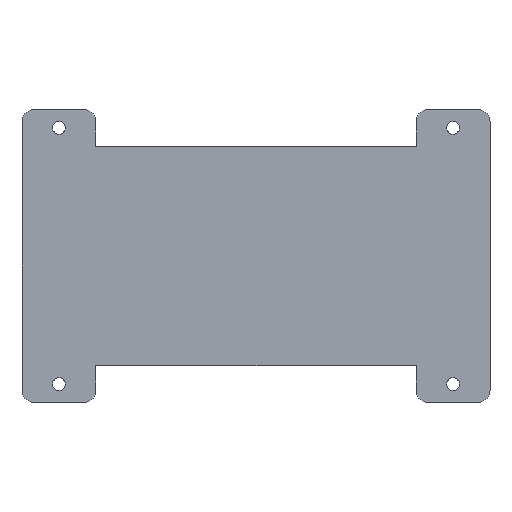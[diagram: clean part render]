
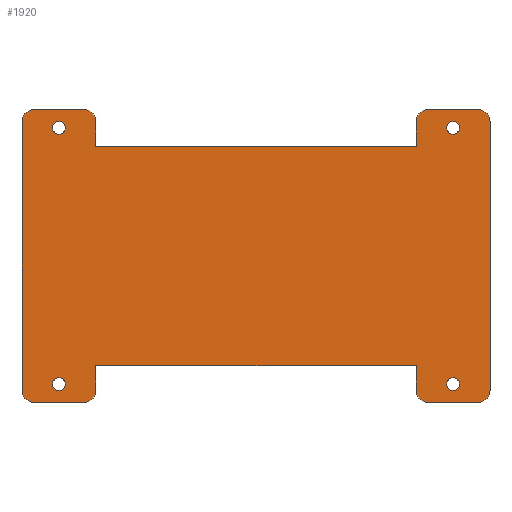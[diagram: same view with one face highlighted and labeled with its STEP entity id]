
A CAD part, top view. The second image highlights one B-rep face of the part: STEP entity #1920.
In plain terms, the highlighted planar face has unit normal (0, 0, 1).
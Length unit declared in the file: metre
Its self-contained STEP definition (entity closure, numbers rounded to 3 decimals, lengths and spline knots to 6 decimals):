
#49=CIRCLE('',#2052,0.003264);
#50=CIRCLE('',#2053,0.003264);
#51=CIRCLE('',#2054,0.003264);
#52=CIRCLE('',#2055,0.003264);
#53=CIRCLE('',#2056,0.00635);
#54=CIRCLE('',#2057,0.00635);
#55=CIRCLE('',#2058,0.00635);
#56=CIRCLE('',#2059,0.00635);
#57=CIRCLE('',#2060,0.00635);
#58=CIRCLE('',#2061,0.00635);
#59=CIRCLE('',#2062,0.00635);
#60=CIRCLE('',#2063,0.00635);
#204=ORIENTED_EDGE('',*,*,#740,.T.);
#205=ORIENTED_EDGE('',*,*,#741,.T.);
#206=ORIENTED_EDGE('',*,*,#742,.T.);
#207=ORIENTED_EDGE('',*,*,#743,.T.);
#208=ORIENTED_EDGE('',*,*,#638,.F.);
#209=ORIENTED_EDGE('',*,*,#744,.F.);
#210=ORIENTED_EDGE('',*,*,#745,.T.);
#211=ORIENTED_EDGE('',*,*,#746,.F.);
#212=ORIENTED_EDGE('',*,*,#747,.F.);
#213=ORIENTED_EDGE('',*,*,#721,.T.);
#214=ORIENTED_EDGE('',*,*,#748,.T.);
#215=ORIENTED_EDGE('',*,*,#749,.T.);
#216=ORIENTED_EDGE('',*,*,#750,.F.);
#217=ORIENTED_EDGE('',*,*,#751,.T.);
#218=ORIENTED_EDGE('',*,*,#723,.T.);
#219=ORIENTED_EDGE('',*,*,#752,.F.);
#220=ORIENTED_EDGE('',*,*,#753,.T.);
#221=ORIENTED_EDGE('',*,*,#754,.F.);
#222=ORIENTED_EDGE('',*,*,#755,.F.);
#223=ORIENTED_EDGE('',*,*,#712,.F.);
#224=ORIENTED_EDGE('',*,*,#756,.T.);
#225=ORIENTED_EDGE('',*,*,#757,.T.);
#226=ORIENTED_EDGE('',*,*,#758,.F.);
#227=ORIENTED_EDGE('',*,*,#759,.T.);
#638=EDGE_CURVE('',#915,#916,#1103,.T.);
#712=EDGE_CURVE('',#980,#978,#1168,.T.);
#721=EDGE_CURVE('',#985,#988,#1177,.T.);
#723=EDGE_CURVE('',#990,#989,#1179,.T.);
#740=EDGE_CURVE('',#1005,#1005,#49,.T.);
#741=EDGE_CURVE('',#1006,#1006,#50,.T.);
#742=EDGE_CURVE('',#1007,#1007,#51,.T.);
#743=EDGE_CURVE('',#1008,#1008,#52,.T.);
#744=EDGE_CURVE('',#1009,#915,#53,.T.);
#745=EDGE_CURVE('',#1009,#1010,#1190,.T.);
#746=EDGE_CURVE('',#1011,#1010,#54,.T.);
#747=EDGE_CURVE('',#985,#1011,#1191,.T.);
#748=EDGE_CURVE('',#988,#1012,#1192,.T.);
#749=EDGE_CURVE('',#1012,#1013,#55,.T.);
#750=EDGE_CURVE('',#1014,#1013,#1193,.T.);
#751=EDGE_CURVE('',#1014,#990,#56,.T.);
#752=EDGE_CURVE('',#1015,#989,#57,.T.);
#753=EDGE_CURVE('',#1015,#1016,#1194,.T.);
#754=EDGE_CURVE('',#1017,#1016,#58,.T.);
#755=EDGE_CURVE('',#978,#1017,#1195,.T.);
#756=EDGE_CURVE('',#980,#1018,#1196,.T.);
#757=EDGE_CURVE('',#1018,#1019,#59,.T.);
#758=EDGE_CURVE('',#1020,#1019,#1197,.T.);
#759=EDGE_CURVE('',#1020,#916,#60,.T.);
#915=VERTEX_POINT('',#2715);
#916=VERTEX_POINT('',#2717);
#978=VERTEX_POINT('',#2856);
#980=VERTEX_POINT('',#2861);
#985=VERTEX_POINT('',#2874);
#988=VERTEX_POINT('',#2880);
#989=VERTEX_POINT('',#2884);
#990=VERTEX_POINT('',#2886);
#1005=VERTEX_POINT('',#2919);
#1006=VERTEX_POINT('',#2921);
#1007=VERTEX_POINT('',#2923);
#1008=VERTEX_POINT('',#2925);
#1009=VERTEX_POINT('',#2927);
#1010=VERTEX_POINT('',#2929);
#1011=VERTEX_POINT('',#2931);
#1012=VERTEX_POINT('',#2934);
#1013=VERTEX_POINT('',#2936);
#1014=VERTEX_POINT('',#2938);
#1015=VERTEX_POINT('',#2941);
#1016=VERTEX_POINT('',#2943);
#1017=VERTEX_POINT('',#2945);
#1018=VERTEX_POINT('',#2948);
#1019=VERTEX_POINT('',#2950);
#1020=VERTEX_POINT('',#2952);
#1103=LINE('',#2716,#1337);
#1168=LINE('',#2862,#1402);
#1177=LINE('',#2881,#1411);
#1179=LINE('',#2885,#1413);
#1190=LINE('',#2928,#1424);
#1191=LINE('',#2932,#1425);
#1192=LINE('',#2933,#1426);
#1193=LINE('',#2937,#1427);
#1194=LINE('',#2942,#1428);
#1195=LINE('',#2946,#1429);
#1196=LINE('',#2947,#1430);
#1197=LINE('',#2951,#1431);
#1337=VECTOR('',#2183,1.);
#1402=VECTOR('',#2280,1.);
#1411=VECTOR('',#2293,1.);
#1413=VECTOR('',#2297,1.);
#1424=VECTOR('',#2332,1.);
#1425=VECTOR('',#2335,1.);
#1426=VECTOR('',#2336,1.);
#1427=VECTOR('',#2339,1.);
#1428=VECTOR('',#2344,1.);
#1429=VECTOR('',#2347,1.);
#1430=VECTOR('',#2348,1.);
#1431=VECTOR('',#2351,1.);
#1583=EDGE_LOOP('',(#204));
#1584=EDGE_LOOP('',(#205));
#1585=EDGE_LOOP('',(#206));
#1586=EDGE_LOOP('',(#207));
#1587=EDGE_LOOP('',(#208,#209,#210,#211,#212,#213,#214,#215,#216,#217,#218,
#219,#220,#221,#222,#223,#224,#225,#226,#227));
#1715=FACE_BOUND('',#1583,.T.);
#1716=FACE_BOUND('',#1584,.T.);
#1717=FACE_BOUND('',#1585,.T.);
#1718=FACE_BOUND('',#1586,.T.);
#1719=FACE_BOUND('',#1587,.T.);
#1836=PLANE('',#2051);
#1920=ADVANCED_FACE('',(#1715,#1716,#1717,#1718,#1719),#1836,.T.);
#2051=AXIS2_PLACEMENT_3D('',#2917,#2320,#2321);
#2052=AXIS2_PLACEMENT_3D('',#2918,#2322,#2323);
#2053=AXIS2_PLACEMENT_3D('',#2920,#2324,#2325);
#2054=AXIS2_PLACEMENT_3D('',#2922,#2326,#2327);
#2055=AXIS2_PLACEMENT_3D('',#2924,#2328,#2329);
#2056=AXIS2_PLACEMENT_3D('',#2926,#2330,#2331);
#2057=AXIS2_PLACEMENT_3D('',#2930,#2333,#2334);
#2058=AXIS2_PLACEMENT_3D('',#2935,#2337,#2338);
#2059=AXIS2_PLACEMENT_3D('',#2939,#2340,#2341);
#2060=AXIS2_PLACEMENT_3D('',#2940,#2342,#2343);
#2061=AXIS2_PLACEMENT_3D('',#2944,#2345,#2346);
#2062=AXIS2_PLACEMENT_3D('',#2949,#2349,#2350);
#2063=AXIS2_PLACEMENT_3D('',#2953,#2352,#2353);
#2183=DIRECTION('',(0.,-1.,0.));
#2280=DIRECTION('',(-1.,0.,0.));
#2293=DIRECTION('',(-1.,0.,0.));
#2297=DIRECTION('',(0.,-1.,0.));
#2320=DIRECTION('',(0.,0.,1.));
#2321=DIRECTION('',(1.,0.,0.));
#2322=DIRECTION('',(0.,0.,-1.));
#2323=DIRECTION('',(-1.,0.,0.));
#2324=DIRECTION('',(0.,0.,-1.));
#2325=DIRECTION('',(-1.,0.,0.));
#2326=DIRECTION('',(0.,0.,-1.));
#2327=DIRECTION('',(-1.,0.,0.));
#2328=DIRECTION('',(0.,0.,-1.));
#2329=DIRECTION('',(-1.,0.,0.));
#2330=DIRECTION('',(0.,0.,-1.));
#2331=DIRECTION('',(1.,0.,0.));
#2332=DIRECTION('',(-1.,0.,0.));
#2333=DIRECTION('',(0.,0.,-1.));
#2334=DIRECTION('',(1.,0.,0.));
#2335=DIRECTION('',(0.,1.,0.));
#2336=DIRECTION('',(0.,1.,0.));
#2337=DIRECTION('',(0.,0.,1.));
#2338=DIRECTION('',(1.,0.,0.));
#2339=DIRECTION('',(1.,0.,0.));
#2340=DIRECTION('',(0.,0.,1.));
#2341=DIRECTION('',(1.,0.,0.));
#2342=DIRECTION('',(0.,0.,-1.));
#2343=DIRECTION('',(1.,0.,0.));
#2344=DIRECTION('',(1.,0.,0.));
#2345=DIRECTION('',(0.,0.,-1.));
#2346=DIRECTION('',(1.,0.,0.));
#2347=DIRECTION('',(0.,-1.,0.));
#2348=DIRECTION('',(0.,-1.,0.));
#2349=DIRECTION('',(0.,0.,1.));
#2350=DIRECTION('',(1.,0.,0.));
#2351=DIRECTION('',(-1.,0.,0.));
#2352=DIRECTION('',(0.,0.,1.));
#2353=DIRECTION('',(1.,0.,0.));
#2715=CARTESIAN_POINT('',(0.3175,0.069215,0.));
#2716=CARTESIAN_POINT('',(0.3175,0.,0.));
#2717=CARTESIAN_POINT('',(0.3175,-0.069215,0.));
#2856=CARTESIAN_POINT('',(0.1143,-0.056515,0.));
#2861=CARTESIAN_POINT('',(0.2794,-0.056515,0.));
#2862=CARTESIAN_POINT('',(0.19685,-0.056515,0.));
#2874=CARTESIAN_POINT('',(0.2794,0.056515,0.));
#2880=CARTESIAN_POINT('',(0.1143,0.056515,0.));
#2881=CARTESIAN_POINT('',(0.19685,0.056515,0.));
#2884=CARTESIAN_POINT('',(0.0762,-0.069215,0.));
#2885=CARTESIAN_POINT('',(0.0762,0.,0.));
#2886=CARTESIAN_POINT('',(0.0762,0.069215,0.));
#2917=CARTESIAN_POINT('',(0.13335,0.,0.));
#2918=CARTESIAN_POINT('',(0.09525,0.06604,0.));
#2919=CARTESIAN_POINT('',(0.091986,0.06604,0.));
#2920=CARTESIAN_POINT('',(0.29845,0.06604,0.));
#2921=CARTESIAN_POINT('',(0.295186,0.06604,0.));
#2922=CARTESIAN_POINT('',(0.29845,-0.06604,0.));
#2923=CARTESIAN_POINT('',(0.295186,-0.06604,0.));
#2924=CARTESIAN_POINT('',(0.09525,-0.06604,0.));
#2925=CARTESIAN_POINT('',(0.091986,-0.06604,0.));
#2926=CARTESIAN_POINT('',(0.31115,0.069215,0.));
#2927=CARTESIAN_POINT('',(0.31115,0.075565,0.));
#2928=CARTESIAN_POINT('',(0.29845,0.075565,0.));
#2929=CARTESIAN_POINT('',(0.28575,0.075565,0.));
#2930=CARTESIAN_POINT('',(0.28575,0.069215,0.));
#2931=CARTESIAN_POINT('',(0.2794,0.069215,0.));
#2932=CARTESIAN_POINT('',(0.2794,0.062865,0.));
#2933=CARTESIAN_POINT('',(0.1143,0.062865,0.));
#2934=CARTESIAN_POINT('',(0.1143,0.069215,0.));
#2935=CARTESIAN_POINT('',(0.10795,0.069215,0.));
#2936=CARTESIAN_POINT('',(0.10795,0.075565,0.));
#2937=CARTESIAN_POINT('',(0.09525,0.075565,0.));
#2938=CARTESIAN_POINT('',(0.08255,0.075565,0.));
#2939=CARTESIAN_POINT('',(0.08255,0.069215,0.));
#2940=CARTESIAN_POINT('',(0.08255,-0.069215,0.));
#2941=CARTESIAN_POINT('',(0.08255,-0.075565,0.));
#2942=CARTESIAN_POINT('',(0.09525,-0.075565,0.));
#2943=CARTESIAN_POINT('',(0.10795,-0.075565,0.));
#2944=CARTESIAN_POINT('',(0.10795,-0.069215,0.));
#2945=CARTESIAN_POINT('',(0.1143,-0.069215,0.));
#2946=CARTESIAN_POINT('',(0.1143,-0.062865,0.));
#2947=CARTESIAN_POINT('',(0.2794,-0.062865,0.));
#2948=CARTESIAN_POINT('',(0.2794,-0.069215,0.));
#2949=CARTESIAN_POINT('',(0.28575,-0.069215,0.));
#2950=CARTESIAN_POINT('',(0.28575,-0.075565,0.));
#2951=CARTESIAN_POINT('',(0.29845,-0.075565,0.));
#2952=CARTESIAN_POINT('',(0.31115,-0.075565,0.));
#2953=CARTESIAN_POINT('',(0.31115,-0.069215,0.));
